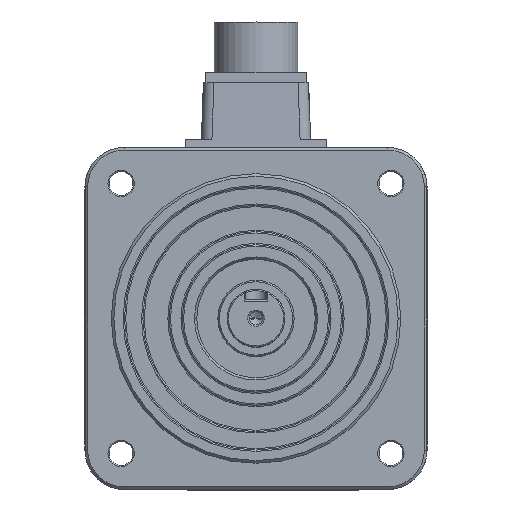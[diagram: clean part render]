
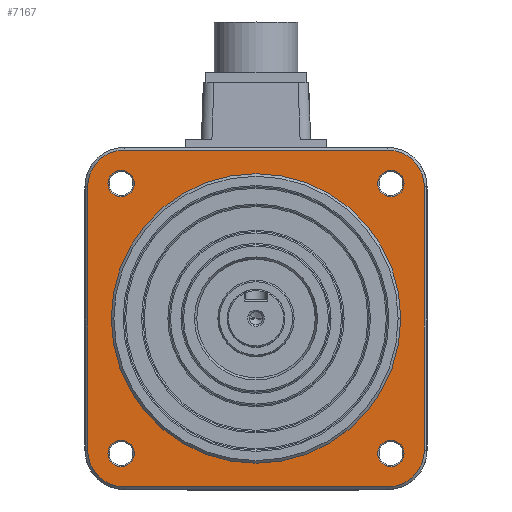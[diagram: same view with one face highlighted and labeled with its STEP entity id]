
A CAD part, top view. The second image highlights one B-rep face of the part: STEP entity #7167.
In plain terms, the highlighted planar face has unit normal (0, 0, 1).
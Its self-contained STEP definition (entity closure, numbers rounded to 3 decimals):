
#98=CARTESIAN_POINT('',(50.,50.,25.));
#99=DIRECTION('',(0.,0.,-1.));
#100=DIRECTION('',(0.,1.,0.));
#101=AXIS2_PLACEMENT_3D('',#98,#99,#100);
#103=CARTESIAN_POINT('',(50.,-50.,25.));
#104=DIRECTION('',(0.,0.,-1.));
#105=DIRECTION('',(1.,0.,0.));
#106=AXIS2_PLACEMENT_3D('',#103,#104,#105);
#108=CARTESIAN_POINT('',(-50.,-50.,25.));
#109=DIRECTION('',(0.,0.,-1.));
#110=DIRECTION('',(0.,-1.,0.));
#111=AXIS2_PLACEMENT_3D('',#108,#109,#110);
#113=CARTESIAN_POINT('',(-50.,50.,25.));
#114=DIRECTION('',(0.,0.,-1.));
#115=DIRECTION('',(-1.,0.,0.));
#116=AXIS2_PLACEMENT_3D('',#113,#114,#115);
#118=CARTESIAN_POINT('',(0.,0.,25.));
#119=DIRECTION('',(0.,0.,1.));
#120=DIRECTION('',(-1.,0.,0.));
#121=AXIS2_PLACEMENT_3D('',#118,#119,#120);
#123=CARTESIAN_POINT('',(0.,0.,25.));
#124=DIRECTION('',(0.,0.,1.));
#125=DIRECTION('',(1.,0.,0.));
#126=AXIS2_PLACEMENT_3D('',#123,#124,#125);
#128=CARTESIAN_POINT('',(-51.265,51.265,25.));
#129=DIRECTION('',(0.,0.,1.));
#130=DIRECTION('',(1.,0.,0.));
#131=AXIS2_PLACEMENT_3D('',#128,#129,#130);
#133=CARTESIAN_POINT('',(-51.265,51.265,25.));
#134=DIRECTION('',(0.,0.,1.));
#135=DIRECTION('',(-1.,0.,0.));
#136=AXIS2_PLACEMENT_3D('',#133,#134,#135);
#138=CARTESIAN_POINT('',(-51.265,-51.265,25.));
#139=DIRECTION('',(0.,0.,1.));
#140=DIRECTION('',(1.,0.,0.));
#141=AXIS2_PLACEMENT_3D('',#138,#139,#140);
#143=CARTESIAN_POINT('',(-51.265,-51.265,25.));
#144=DIRECTION('',(0.,0.,1.));
#145=DIRECTION('',(-1.,0.,0.));
#146=AXIS2_PLACEMENT_3D('',#143,#144,#145);
#148=CARTESIAN_POINT('',(51.265,-51.265,25.));
#149=DIRECTION('',(0.,0.,1.));
#150=DIRECTION('',(1.,0.,0.));
#151=AXIS2_PLACEMENT_3D('',#148,#149,#150);
#153=CARTESIAN_POINT('',(51.265,-51.265,25.));
#154=DIRECTION('',(0.,0.,1.));
#155=DIRECTION('',(-1.,0.,0.));
#156=AXIS2_PLACEMENT_3D('',#153,#154,#155);
#158=CARTESIAN_POINT('',(51.265,51.265,25.));
#159=DIRECTION('',(0.,0.,1.));
#160=DIRECTION('',(1.,0.,0.));
#161=AXIS2_PLACEMENT_3D('',#158,#159,#160);
#163=CARTESIAN_POINT('',(51.265,51.265,25.));
#164=DIRECTION('',(0.,0.,1.));
#165=DIRECTION('',(-1.,0.,0.));
#166=AXIS2_PLACEMENT_3D('',#163,#164,#165);
#350=DIRECTION('',(-1.,0.,0.));
#351=VECTOR('',#350,100.);
#352=CARTESIAN_POINT('',(50.,63.969,25.));
#353=LINE('',#352,#351);
#502=DIRECTION('',(0.,-1.,0.));
#503=VECTOR('',#502,100.);
#504=CARTESIAN_POINT('',(-63.969,50.,25.));
#505=LINE('',#504,#503);
#700=DIRECTION('',(1.,0.,0.));
#701=VECTOR('',#700,100.);
#702=CARTESIAN_POINT('',(-50.,-63.969,25.));
#703=LINE('',#702,#701);
#906=DIRECTION('',(0.,1.,0.));
#907=VECTOR('',#906,100.);
#908=CARTESIAN_POINT('',(63.969,-50.,25.));
#909=LINE('',#908,#907);
#5586=CARTESIAN_POINT('',(55.,0.,25.));
#5587=VERTEX_POINT('',#5586);
#5588=CARTESIAN_POINT('',(-55.,0.,25.));
#5589=VERTEX_POINT('',#5588);
#5590=CARTESIAN_POINT('',(50.,63.969,25.));
#5591=CARTESIAN_POINT('',(63.969,50.,25.));
#5592=VERTEX_POINT('',#5590);
#5593=VERTEX_POINT('',#5591);
#5594=CARTESIAN_POINT('',(63.969,-50.,25.));
#5595=CARTESIAN_POINT('',(50.,-63.969,25.));
#5596=VERTEX_POINT('',#5594);
#5597=VERTEX_POINT('',#5595);
#5598=CARTESIAN_POINT('',(-50.,-63.969,25.));
#5599=CARTESIAN_POINT('',(-63.969,-50.,25.));
#5600=VERTEX_POINT('',#5598);
#5601=VERTEX_POINT('',#5599);
#5602=CARTESIAN_POINT('',(-63.969,50.,25.));
#5603=CARTESIAN_POINT('',(-50.,63.969,25.));
#5604=VERTEX_POINT('',#5602);
#5605=VERTEX_POINT('',#5603);
#5606=CARTESIAN_POINT('',(-46.265,51.265,25.));
#5607=CARTESIAN_POINT('',(-56.265,51.265,25.));
#5608=VERTEX_POINT('',#5606);
#5609=VERTEX_POINT('',#5607);
#5610=CARTESIAN_POINT('',(-46.265,-51.265,25.));
#5611=CARTESIAN_POINT('',(-56.265,-51.265,25.));
#5612=VERTEX_POINT('',#5610);
#5613=VERTEX_POINT('',#5611);
#5614=CARTESIAN_POINT('',(56.265,-51.265,25.));
#5615=CARTESIAN_POINT('',(46.265,-51.265,25.));
#5616=VERTEX_POINT('',#5614);
#5617=VERTEX_POINT('',#5615);
#5618=CARTESIAN_POINT('',(56.265,51.265,25.));
#5619=CARTESIAN_POINT('',(46.265,51.265,25.));
#5620=VERTEX_POINT('',#5618);
#5621=VERTEX_POINT('',#5619);
#7116=CARTESIAN_POINT('',(0.,0.,25.));
#7117=DIRECTION('',(0.,0.,1.));
#7118=DIRECTION('',(1.,0.,0.));
#7119=AXIS2_PLACEMENT_3D('',#7116,#7117,#7118);
#7120=PLANE('',#7119);
#7122=ORIENTED_EDGE('',*,*,#7121,.T.);
#7124=ORIENTED_EDGE('',*,*,#7123,.F.);
#7126=ORIENTED_EDGE('',*,*,#7125,.T.);
#7128=ORIENTED_EDGE('',*,*,#7127,.F.);
#7130=ORIENTED_EDGE('',*,*,#7129,.T.);
#7132=ORIENTED_EDGE('',*,*,#7131,.F.);
#7134=ORIENTED_EDGE('',*,*,#7133,.T.);
#7136=ORIENTED_EDGE('',*,*,#7135,.F.);
#7137=EDGE_LOOP('',(#7122,#7124,#7126,#7128,#7130,#7132,#7134,#7136));
#7138=FACE_OUTER_BOUND('',#7137,.F.);
#7139=ORIENTED_EDGE('',*,*,#7109,.T.);
#7140=ORIENTED_EDGE('',*,*,#7098,.T.);
#7141=EDGE_LOOP('',(#7139,#7140));
#7142=FACE_BOUND('',#7141,.F.);
#7144=ORIENTED_EDGE('',*,*,#7143,.T.);
#7146=ORIENTED_EDGE('',*,*,#7145,.T.);
#7147=EDGE_LOOP('',(#7144,#7146));
#7148=FACE_BOUND('',#7147,.F.);
#7150=ORIENTED_EDGE('',*,*,#7149,.T.);
#7152=ORIENTED_EDGE('',*,*,#7151,.T.);
#7153=EDGE_LOOP('',(#7150,#7152));
#7154=FACE_BOUND('',#7153,.F.);
#7156=ORIENTED_EDGE('',*,*,#7155,.T.);
#7158=ORIENTED_EDGE('',*,*,#7157,.T.);
#7159=EDGE_LOOP('',(#7156,#7158));
#7160=FACE_BOUND('',#7159,.F.);
#7162=ORIENTED_EDGE('',*,*,#7161,.T.);
#7164=ORIENTED_EDGE('',*,*,#7163,.T.);
#7165=EDGE_LOOP('',(#7162,#7164));
#7166=FACE_BOUND('',#7165,.F.);
#102=CIRCLE('',#101,13.969);
#107=CIRCLE('',#106,13.969);
#112=CIRCLE('',#111,13.969);
#117=CIRCLE('',#116,13.969);
#122=CIRCLE('',#121,55.);
#127=CIRCLE('',#126,55.);
#132=CIRCLE('',#131,5.);
#137=CIRCLE('',#136,5.);
#142=CIRCLE('',#141,5.);
#147=CIRCLE('',#146,5.);
#152=CIRCLE('',#151,5.);
#157=CIRCLE('',#156,5.);
#162=CIRCLE('',#161,5.);
#167=CIRCLE('',#166,5.);
#7098=EDGE_CURVE('',#5587,#5589,#127,.T.);
#7109=EDGE_CURVE('',#5589,#5587,#122,.T.);
#7121=EDGE_CURVE('',#5592,#5593,#102,.T.);
#7123=EDGE_CURVE('',#5596,#5593,#909,.T.);
#7125=EDGE_CURVE('',#5596,#5597,#107,.T.);
#7127=EDGE_CURVE('',#5600,#5597,#703,.T.);
#7129=EDGE_CURVE('',#5600,#5601,#112,.T.);
#7131=EDGE_CURVE('',#5604,#5601,#505,.T.);
#7133=EDGE_CURVE('',#5604,#5605,#117,.T.);
#7135=EDGE_CURVE('',#5592,#5605,#353,.T.);
#7143=EDGE_CURVE('',#5608,#5609,#132,.T.);
#7145=EDGE_CURVE('',#5609,#5608,#137,.T.);
#7149=EDGE_CURVE('',#5612,#5613,#142,.T.);
#7151=EDGE_CURVE('',#5613,#5612,#147,.T.);
#7155=EDGE_CURVE('',#5616,#5617,#152,.T.);
#7157=EDGE_CURVE('',#5617,#5616,#157,.T.);
#7161=EDGE_CURVE('',#5620,#5621,#162,.T.);
#7163=EDGE_CURVE('',#5621,#5620,#167,.T.);
#7167=ADVANCED_FACE('',(#7138,#7142,#7148,#7154,#7160,#7166),#7120,.T.);
